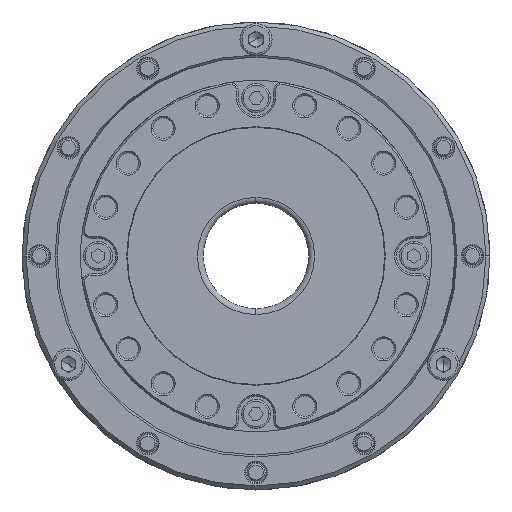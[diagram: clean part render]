
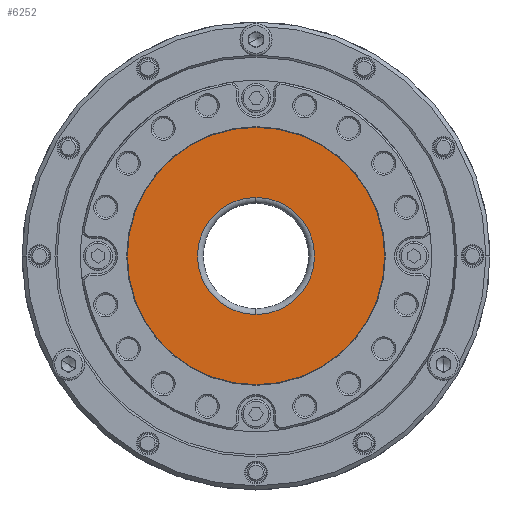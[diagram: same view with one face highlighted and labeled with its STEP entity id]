
A CAD part, front view. The second image highlights one B-rep face of the part: STEP entity #6252.
In plain terms, the highlighted planar face has unit normal (0, -1, 0).
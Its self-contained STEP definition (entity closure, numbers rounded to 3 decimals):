
#498 = AXIS2_PLACEMENT_3D ( 'NONE', #11405, #13869, #4177 ) ;
#1645 = VERTEX_POINT ( 'NONE', #30099 ) ;
#1722 = FACE_BOUND ( 'NONE', #18501, .T. ) ;
#2519 = CARTESIAN_POINT ( 'NONE',  ( 0., -29.35, -10. ) ) ;
#3108 = DIRECTION ( 'NONE',  ( 0., 1., 0. ) ) ;
#3743 = DIRECTION ( 'NONE',  ( 0., 0., -1. ) ) ;
#4153 = DIRECTION ( 'NONE',  ( 0., 0., -1. ) ) ;
#4177 = DIRECTION ( 'NONE',  ( 0., 0., -1. ) ) ;
#5428 = DIRECTION ( 'NONE',  ( 0., 0., -1. ) ) ;
#5851 = EDGE_CURVE ( 'NONE', #10947, #29697, #27437, .T. ) ;
#6252 = ADVANCED_FACE ( 'NONE', ( #1722, #25359 ), #6960, .T. ) ;
#6592 = ORIENTED_EDGE ( 'NONE', *, *, #27317, .T. ) ;
#6875 = AXIS2_PLACEMENT_3D ( 'NONE', #28479, #7751, #19286 ) ;
#6939 = DIRECTION ( 'NONE',  ( 0., -1., 0. ) ) ;
#6960 = PLANE ( 'NONE',  #498 ) ;
#7751 = DIRECTION ( 'NONE',  ( 0., 1., 0. ) ) ;
#9024 = ORIENTED_EDGE ( 'NONE', *, *, #22608, .T. ) ;
#9268 = AXIS2_PLACEMENT_3D ( 'NONE', #13847, #6939, #4153 ) ;
#9973 = AXIS2_PLACEMENT_3D ( 'NONE', #22347, #27227, #3743 ) ;
#10947 = VERTEX_POINT ( 'NONE', #12942 ) ;
#11033 = EDGE_CURVE ( 'NONE', #19706, #1645, #22516, .T. ) ;
#11052 = AXIS2_PLACEMENT_3D ( 'NONE', #12654, #3108, #5428 ) ;
#11405 = CARTESIAN_POINT ( 'NONE',  ( 0., -29.35, 0. ) ) ;
#12654 = CARTESIAN_POINT ( 'NONE',  ( 0., -29.35, 0. ) ) ;
#12942 = CARTESIAN_POINT ( 'NONE',  ( 0., -29.35, 10. ) ) ;
#13847 = CARTESIAN_POINT ( 'NONE',  ( 0., -29.35, 0. ) ) ;
#13869 = DIRECTION ( 'NONE',  ( 0., -1., 0. ) ) ;
#15474 = CIRCLE ( 'NONE', #11052, 10. ) ;
#18241 = ORIENTED_EDGE ( 'NONE', *, *, #11033, .T. ) ;
#18501 = EDGE_LOOP ( 'NONE', ( #9024, #25165 ) ) ;
#19286 = DIRECTION ( 'NONE',  ( 0., 0., -1. ) ) ;
#19706 = VERTEX_POINT ( 'NONE', #24418 ) ;
#20072 = EDGE_LOOP ( 'NONE', ( #6592, #18241 ) ) ;
#22347 = CARTESIAN_POINT ( 'NONE',  ( 0., -29.35, 0. ) ) ;
#22516 = CIRCLE ( 'NONE', #9268, 22. ) ;
#22608 = EDGE_CURVE ( 'NONE', #29697, #10947, #15474, .T. ) ;
#22744 = CIRCLE ( 'NONE', #9973, 22. ) ;
#24418 = CARTESIAN_POINT ( 'NONE',  ( 0., -29.35, 22. ) ) ;
#25165 = ORIENTED_EDGE ( 'NONE', *, *, #5851, .T. ) ;
#25359 = FACE_OUTER_BOUND ( 'NONE', #20072, .T. ) ;
#27227 = DIRECTION ( 'NONE',  ( 0., -1., 0. ) ) ;
#27317 = EDGE_CURVE ( 'NONE', #1645, #19706, #22744, .T. ) ;
#27437 = CIRCLE ( 'NONE', #6875, 10. ) ;
#28479 = CARTESIAN_POINT ( 'NONE',  ( 0., -29.35, 0. ) ) ;
#29697 = VERTEX_POINT ( 'NONE', #2519 ) ;
#30099 = CARTESIAN_POINT ( 'NONE',  ( 0., -29.35, -22. ) ) ;
